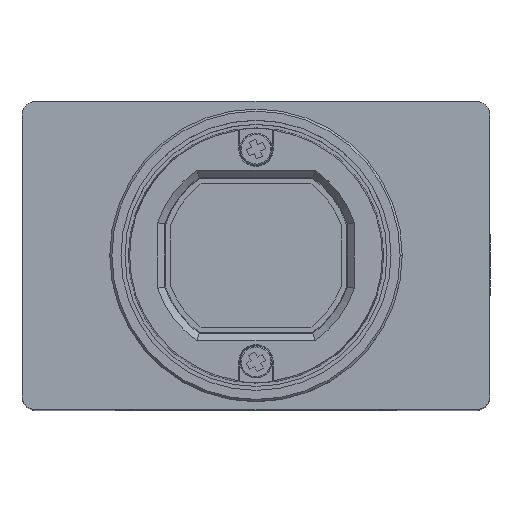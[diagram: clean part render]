
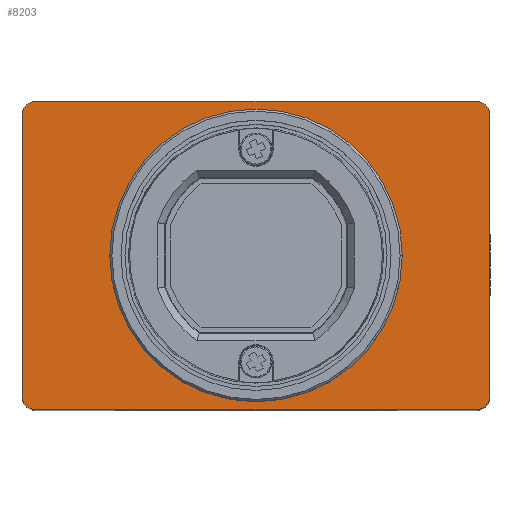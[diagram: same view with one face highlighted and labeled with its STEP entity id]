
A CAD part, top view. The second image highlights one B-rep face of the part: STEP entity #8203.
In plain terms, the highlighted planar face has unit normal (0, 0, 1).
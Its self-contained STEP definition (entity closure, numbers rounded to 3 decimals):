
#756 = CARTESIAN_POINT ( 'NONE',  ( -22., -13.2, 0. ) ) ;
#759 = AXIS2_PLACEMENT_3D ( 'NONE', #10141, #10133, #10117 ) ;
#796 = EDGE_LOOP ( 'NONE', ( #11875, #899, #11301, #9355, #4892, #1224, #10148, #9360 ) ) ;
#899 = ORIENTED_EDGE ( 'NONE', *, *, #1432, .T. ) ;
#912 = CARTESIAN_POINT ( 'NONE',  ( 22., -13.2, 0. ) ) ;
#1224 = ORIENTED_EDGE ( 'NONE', *, *, #6741, .T. ) ;
#1432 = EDGE_CURVE ( 'NONE', #7696, #7327, #7021, .T. ) ;
#1884 = EDGE_CURVE ( 'NONE', #7327, #11926, #9413, .T. ) ;
#2540 = LINE ( 'NONE', #3148, #4473 ) ;
#2778 = CARTESIAN_POINT ( 'NONE',  ( 22., 13.2, 0. ) ) ;
#3001 = DIRECTION ( 'NONE',  ( 1., 0., 0. ) ) ;
#3148 = CARTESIAN_POINT ( 'NONE',  ( -20.7, -14.5, 0. ) ) ;
#3264 = EDGE_CURVE ( 'NONE', #11926, #8728, #2540, .T. ) ;
#3478 = CIRCLE ( 'NONE', #10593, 1.3 ) ;
#3827 = AXIS2_PLACEMENT_3D ( 'NONE', #6424, #6383, #6373 ) ;
#3915 = EDGE_CURVE ( 'NONE', #8728, #12034, #11805, .T. ) ;
#3928 = CIRCLE ( 'NONE', #3827, 13.75 ) ;
#4023 = AXIS2_PLACEMENT_3D ( 'NONE', #8679, #8653, #8638 ) ;
#4202 = CARTESIAN_POINT ( 'NONE',  ( 20.7, -14.5, 0. ) ) ;
#4336 = CARTESIAN_POINT ( 'NONE',  ( -22., 13.2, 0. ) ) ;
#4473 = VECTOR ( 'NONE', #3001, 1000. ) ;
#4541 = CARTESIAN_POINT ( 'NONE',  ( -20.7, -14.5, 0. ) ) ;
#4816 = FACE_OUTER_BOUND ( 'NONE', #796, .T. ) ;
#4892 = ORIENTED_EDGE ( 'NONE', *, *, #3915, .T. ) ;
#5011 = VECTOR ( 'NONE', #5166, 1000. ) ;
#5081 = CARTESIAN_POINT ( 'NONE',  ( -20.7, 14.5, 0. ) ) ;
#5166 = DIRECTION ( 'NONE',  ( -1., 0., 0. ) ) ;
#5508 = VERTEX_POINT ( 'NONE', #9162 ) ;
#5527 = ORIENTED_EDGE ( 'NONE', *, *, #12409, .F. ) ;
#5789 = DIRECTION ( 'NONE',  ( -1., 0., 0. ) ) ;
#5804 = DIRECTION ( 'NONE',  ( 0., 0., 1. ) ) ;
#5827 = CARTESIAN_POINT ( 'NONE',  ( 20.7, 13.2, 0. ) ) ;
#5915 = DIRECTION ( 'NONE',  ( -1., 0., 0. ) ) ;
#5939 = DIRECTION ( 'NONE',  ( 0., 0., 1. ) ) ;
#5962 = CARTESIAN_POINT ( 'NONE',  ( -20.7, 13.2, 0. ) ) ;
#6134 = AXIS2_PLACEMENT_3D ( 'NONE', #8708, #8695, #8675 ) ;
#6307 = DIRECTION ( 'NONE',  ( 0., 1., 0. ) ) ;
#6337 = VERTEX_POINT ( 'NONE', #10259 ) ;
#6373 = DIRECTION ( 'NONE',  ( -1., 0., 0. ) ) ;
#6383 = DIRECTION ( 'NONE',  ( 0., 0., 1. ) ) ;
#6424 = CARTESIAN_POINT ( 'NONE',  ( 0., 0., 0. ) ) ;
#6537 = CARTESIAN_POINT ( 'NONE',  ( 22., -13.2, 0. ) ) ;
#6709 = VECTOR ( 'NONE', #6307, 1000. ) ;
#6741 = EDGE_CURVE ( 'NONE', #12034, #10278, #9449, .T. ) ;
#6779 = EDGE_CURVE ( 'NONE', #9156, #7696, #7045, .T. ) ;
#6782 = EDGE_CURVE ( 'NONE', #10278, #5508, #3478, .T. ) ;
#6914 = EDGE_CURVE ( 'NONE', #5508, #9156, #10870, .T. ) ;
#7021 = LINE ( 'NONE', #10175, #12149 ) ;
#7045 = CIRCLE ( 'NONE', #10664, 1.3 ) ;
#7327 = VERTEX_POINT ( 'NONE', #756 ) ;
#7420 = ORIENTED_EDGE ( 'NONE', *, *, #12515, .F. ) ;
#7696 = VERTEX_POINT ( 'NONE', #4336 ) ;
#8203 = ADVANCED_FACE ( 'NONE', ( #4816, #10335 ), #10973, .F. ) ;
#8638 = DIRECTION ( 'NONE',  ( -1., 0., 0. ) ) ;
#8653 = DIRECTION ( 'NONE',  ( 0., 0., 1. ) ) ;
#8675 = DIRECTION ( 'NONE',  ( -1., 0., 0. ) ) ;
#8679 = CARTESIAN_POINT ( 'NONE',  ( 0., 0., 0. ) ) ;
#8695 = DIRECTION ( 'NONE',  ( 0., 0., 1. ) ) ;
#8708 = CARTESIAN_POINT ( 'NONE',  ( -20.7, -13.2, 0. ) ) ;
#8728 = VERTEX_POINT ( 'NONE', #4202 ) ;
#9052 = AXIS2_PLACEMENT_3D ( 'NONE', #11105, #10906, #10893 ) ;
#9156 = VERTEX_POINT ( 'NONE', #12281 ) ;
#9162 = CARTESIAN_POINT ( 'NONE',  ( 20.7, 14.5, 0. ) ) ;
#9355 = ORIENTED_EDGE ( 'NONE', *, *, #3264, .T. ) ;
#9360 = ORIENTED_EDGE ( 'NONE', *, *, #6914, .T. ) ;
#9413 = CIRCLE ( 'NONE', #6134, 1.3 ) ;
#9449 = LINE ( 'NONE', #6537, #6709 ) ;
#10117 = DIRECTION ( 'NONE',  ( 1., 0., 0. ) ) ;
#10133 = DIRECTION ( 'NONE',  ( 0., 0., 1. ) ) ;
#10141 = CARTESIAN_POINT ( 'NONE',  ( 20.7, -13.2, 0. ) ) ;
#10148 = ORIENTED_EDGE ( 'NONE', *, *, #6782, .T. ) ;
#10158 = DIRECTION ( 'NONE',  ( 0., -1., 0. ) ) ;
#10175 = CARTESIAN_POINT ( 'NONE',  ( -22., -13.2, 0. ) ) ;
#10259 = CARTESIAN_POINT ( 'NONE',  ( -13.75, 0., 0. ) ) ;
#10278 = VERTEX_POINT ( 'NONE', #2778 ) ;
#10335 = FACE_BOUND ( 'NONE', #13020, .T. ) ;
#10593 = AXIS2_PLACEMENT_3D ( 'NONE', #5827, #5804, #5789 ) ;
#10664 = AXIS2_PLACEMENT_3D ( 'NONE', #5962, #5939, #5915 ) ;
#10870 = LINE ( 'NONE', #5081, #5011 ) ;
#10893 = DIRECTION ( 'NONE',  ( -1., 0., 0. ) ) ;
#10906 = DIRECTION ( 'NONE',  ( 0., 0., -1. ) ) ;
#10973 = PLANE ( 'NONE',  #9052 ) ;
#11105 = CARTESIAN_POINT ( 'NONE',  ( -20.7, 13.2, 0. ) ) ;
#11301 = ORIENTED_EDGE ( 'NONE', *, *, #1884, .T. ) ;
#11805 = CIRCLE ( 'NONE', #759, 1.3 ) ;
#11875 = ORIENTED_EDGE ( 'NONE', *, *, #6779, .T. ) ;
#11926 = VERTEX_POINT ( 'NONE', #4541 ) ;
#12034 = VERTEX_POINT ( 'NONE', #912 ) ;
#12149 = VECTOR ( 'NONE', #10158, 1000. ) ;
#12281 = CARTESIAN_POINT ( 'NONE',  ( -20.7, 14.5, 0. ) ) ;
#12409 = EDGE_CURVE ( 'NONE', #13013, #6337, #13219, .T. ) ;
#12515 = EDGE_CURVE ( 'NONE', #6337, #13013, #3928, .T. ) ;
#13013 = VERTEX_POINT ( 'NONE', #13225 ) ;
#13020 = EDGE_LOOP ( 'NONE', ( #7420, #5527 ) ) ;
#13219 = CIRCLE ( 'NONE', #4023, 13.75 ) ;
#13225 = CARTESIAN_POINT ( 'NONE',  ( 13.75, 0., 0. ) ) ;
